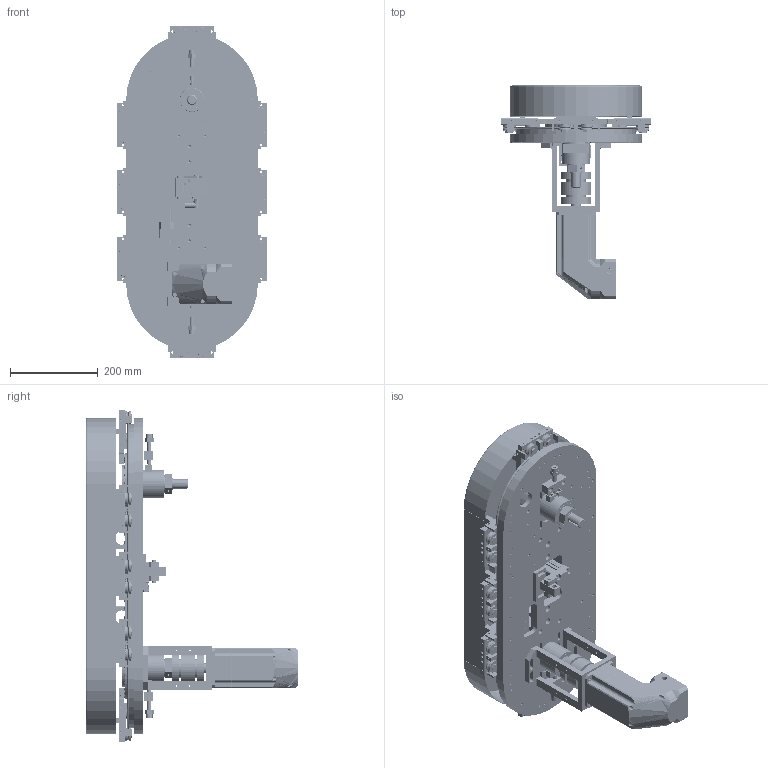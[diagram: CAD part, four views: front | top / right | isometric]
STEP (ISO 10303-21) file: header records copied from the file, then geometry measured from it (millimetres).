
FILE_DESCRIPTION (( 'STEP AP214' ), '1' );
FILE_NAME ('6.15-HXKB-L1.STEP', '2023-06-15T11:06:37', ( '' ), ( '' ), 'SwSTEP 2.0', 'SolidWorks 2016', '' );
FILE_SCHEMA (( 'AUTOMOTIVE_DESIGN' ));
Length unit declared in the file: millimetre
Products named in the file (64): 6.14-4.25-HXKB-9.21-7.30-PD90-SJH01_3.傖こ-1z2-RR-L1-L2; 6.14-4.25--鍼踢誘欶-L-L2; 6.14-4.25-HXKB-SC19-AHA01-LA1-幗謫蚳蚚菜え-L1-L2; 6.14-4.25-HXKB-ACQ 32×20S_ACQ32-100超薄气缸-L1-L2_ACQ 32×20-1; 6.14-4.25-HXKB-SC21-DHC01-TB1-桲踡蹟佪-L1-L2; 6.14-4.25-HXKB-粣創滅賑輸-L1-L2; 6.14-4.25-HXKB-SC19-AFA01-LA1-幗謫-L1-L2; 6.14-4.25-HXKB-垂直感应开关组-定位-L1-L2; 6.14-4.25-HXKB-SC21-FAA01-TB1-6006U倰鎮湛盓殤-L1-L2; 6.14-4.25-HXKB-SC21-AGA01-TB1-幗謫脹詢菜え-L1-L2; 6.14-4.25-HXKB-255耀攜菁啣-2-蟈沭-L1-L2; 6.14-4.25-HXKB-隅弇郪赶桉粣創-m8-30-L1-L2; 6.14-4.25-HXKB-SC21-DBB02-TB1-蟈沭翋雄粣陑6006-L1-L2; 6.14-4.25-HXKB-SC21-ECB01-TB1-ァ詰蟀諉粣-L1-L2; 6.14-4.25-HXKB-SC21-ADB02-TB1-蟈沭蟀諉蜇璃-侂-L1-L2; 6.14-4.25-HXKB-SC19-AOA01-LA1-ぇ陑幗謫粣-L1-L2; 6.14-4.25-HXKB-9.21-7.30-邧埴瑩 6x6x25-1z2-RR-L1-L2; 6.14-4.25-HXKB-255-蟈沭苤陬郪-L1-L2; 6.14-4.25-HXKB-SC19-AIA01-LA1-幗謫蚳蚚蹟譫-L1-L2; 6.14-4.25-HXKB-SC21-EAC06-TB1-底板气缸双轴承座-上-L1-L2_BHLC6003ZZ-40-KCA; 6.14-4.25-HXKB-SC21-DAB01-TB1-翋雄粣創釱6006-L1-L2; 6.14-4.25-HXKB-SC21-EDA02-TB1-ァ詰蟀諉等嫉-L1-L2; 6.14-4.25-HXKB-SC21-AAA-TB1-苤陬啣255-L1-L2; 6.14-4.25-HXKB-9.21-7.30-PD90-奻裔啣_108T-1z2-RR-L1-L2; 6.14-4.25-HXKB-SC21-DCA01-TB1-翋雄粣傷裔-255-L1-L2; 6.14-4.25-HXKB-SC21-ACB02-TB1-轻载环轨255-L1-L2; 6.14-4.25-HXKB-籵蚚桲踡郪-L1-L2; 6.14-4.25-HXKB-SC21-EEB02-TB1-隅弇啊旋-L1-L2; 6.14-4.25-HXKB-750W萇儂郪-L1-L2; 6.14-4.25-HXKB-联轴器68-75-22-22-6T-L1-L2; 6.14-4.25-HXKB-SC21-DHB01-TB1-桲踡蜇璃-L1-L2; 6.14-4.25-HXKB-SC21-AMA01-TB1-蚐碟-L1-L2; 6.14-4.25-HXKB-9.21-7.30-PD90-内齿圈_108T-1z2-RR-L1-L2; 6.14-4.25-HXKB-255蟈沭GMP郪-L1-L2; 6.14-4.25-HXKB-SC21-EEA02-TB1-雄薯啊旋-L1-L2; 6.15-HXKB-L1; 6.14-4.25-HXKB-E2B_S08LN04_WP_C1（NPN）-L1-L2; 6.14-4.25-HXKB-SC21-EDB02-TB1-ァ詰蟀諉邧嫉-L1-L2; 6.14-4.25-HXKB-SC21-EBA02-TB1-ァ詰粣創釱假蚾輸-L1-L2; 6.14-4.25-HXKB-SC21-AJA01-TB1-苤陬蟈謫誘欶-L1-L2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
Assembly tree (95 placements, depth 4):
  6.15-HXKB-L1
    6.14-4.25-HXKB-255蟈沭GMP郪-L1-L2
      6.14-4.25-HXKB-SC19-ABA01-LA1-眻寢酗僅A-L1-L2  x2
      6.14-4.25-HXKB-SC21-ACB02-TB1-轻载环轨255-L1-L2  x2
      6.14-4.25-HXKB-255-蟈沭苤陬郪-L1-L2  x8
        6.14-4.25-HXKB-SC21-AAA-TB1-苤陬啣255-L1-L2
        6.14-4.25-HXKB-SC21-ADB02-TB1-蟈沭蟀諉蜇璃-侂-L1-L2
        6.14-4.25-HXKB-SC21-AGA01-TB1-幗謫脹詢菜え-L1-L2
        6.14-4.25-HXKB-SC21-AMA01-TB1-蚐碟-L1-L2
        6.14-4.25-HXKB-SC19-AFA01-LA1-幗謫-L1-L2
        6.14-4.25-HXKB-SC19-ANA01-LA1-肮陑幗謫粣-L1-L2
        6.14-4.25-HXKB-SC19-AOA01-LA1-ぇ陑幗謫粣-L1-L2
        6.14-4.25-HXKB-SC19-AIA01-LA1-幗謫蚳蚚蹟譫-L1-L2
        6.14-4.25-HXKB-SC19-AHA01-LA1-幗謫蚳蚚菜え-L1-L2
        6.14-4.25-HXKB-SC21-AJA01-TB1-苤陬蟈謫誘欶-L1-L2
        6.14-4.25-HXKB-ﾍｭﾌﾗ｣ｨｦﾕ10X6X6)-L1-L2
        6.14-4.25-HXKB-SC21-AQA03-TB1-12A蟈沭樓酗諶-L1-L2
        6.14-4.25-HXKB-SC21-AEA08-TB1-摆臂式定位附件-上-L1-L2
        6.14-5.9-风琴罩-Y1
    6.14-4.25-HXKB-255耀攜菁啣-2-蟈沭-L1-L2
    6.14-4.25-HXKB-255蟈謫謫郪-L1-L2  x2
      6.14-4.25-HXKB-SC21-CAA01-TB1-255翋雄蟈謫20C-L1-L2_05B
      6.14-4.25-HXKB-SC21-DBB02-TB1-蟈沭翋雄粣陑6006-L1-L2
      6.14-4.25-HXKB-SC21-DDA02-TB1-M27-3.0滅侂蹟譫-L1-L2
      6.14-4.25-HXKB-SC21-DAB01-TB1-翋雄粣創釱6006-L1-L2
      6.14-4.25-HXKB-6006-2Z-L1-L2
      6.14-4.25-HXKB-SC21-DCA01-TB1-翋雄粣傷裔-255-L1-L2
      6.14-4.25-HXKB-籵蚚桲踡郪-L1-L2
        6.14-4.25-HXKB-SC21-DHA01-TB1-桲踡輸-L1-L2
        6.14-4.25-HXKB-SC21-DHB01-TB1-桲踡蜇璃-L1-L2
        6.14-4.25-HXKB-SC21-DHC01-TB1-桲踡蹟佪-L1-L2
    6.14-4.25-HXKB-750W萇儂郪-L1-L2
      6.14-4.25-HXKB-SC21-FAA01-TB1-6006U倰鎮湛盓殤-L1-L2
      6.14-4.25-HXKB-联轴器68-75-22-22-6T-L1-L2
      6.14-4.25-HXKB-750W-90°减速机-L1-L2
        6.14-4.25-HXKB-9.21-7.30-PD90-内齿圈_108T-1z2-RR-L1-L2
        6.14-4.25-HXKB-9.21-7.30-PD90-奻裔啣_108T-1z2-RR-L1-L2
        6.14-4.25-HXKB-9.21-7.30-PD90-SJH01_3.傖こ-1z2-RR-L1-L2
        6.14-4.25-HXKB-9.21-7.30-邧埴瑩 6x6x25-1z2-RR-L1-L2
        6.14-4.25-HXKB-9.21-7.30-PD90-眊极_桽倰2-1z2-RR-L1-L2
        6.14-4.25-HXKB-9.21-7.30-PDR90-LJ_珨极宒 梓袧-1z2-RR-L1-L2
        6.14-4.25-HXKB-9.21-7.30-内六角圆柱头螺钉M5×20-1z2-RR-L1-L2
    6.14-4.25-HXKB-255蟈沭-邳埴-L1-L2
    6.14-4.25-HXKB-立式双摆臂定位组-2-L1-L2
      6.14-4.25-HXKB-SC21-EBA02-TB1-ァ詰粣創釱假蚾輸-L1-L2  x2
      6.14-4.25-HXKB-SC21-ECB01-TB1-ァ詰蟀諉粣-L1-L2
      6.14-4.25-HXKB-SC21-ECA01-TB1-啊旋蟀諉粣-L1-L2
      6.14-4.25-HXKB-SC21-EDA02-TB1-ァ詰蟀諉等嫉-L1-L2
      6.14-4.25-HXKB-SC21-EDB02-TB1-ァ詰蟀諉邧嫉-L1-L2
      6.14-4.25-HXKB-6003-L1-L2  x3
      6.14-4.25-HXKB-随动器16-L1-L2_KRV 168
      6.14-4.25-HXKB-ACQ 32×20S_ACQ32-100超薄气缸-L1-L2_ACQ 32×20-1
      6.14-4.25-HXKB-隅弇郪赶桉粣創-m8-30-L1-L2
      6.14-4.25-HXKB-SC21-EEB02-TB1-隅弇啊旋-L1-L2
      6.14-4.25-HXKB-SC21-EEA02-TB1-雄薯啊旋-L1-L2
      6.14-4.25-HXKB-粣創滅賑輸-L1-L2
      6.14-4.25-HXKB-SC21-EAC06-TB1-底板气缸双轴承座-上-L1-L2_BHLC6003ZZ-40-KCA
      6.14-4.25-HXKB-SC21-EAC04-TB1-菁啣ァ詰粣創釱-奻-L1-L2_BHLC6003ZZ-40-KCA
      6.14-4.25-HXKB-等晚邧啊旋嫖粣2-L1-L2
    6.14-4.25-HXKB-垂直感应开关组-定位-L1-L2
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Bounding box: 340.72 x 485 x 756.77 mm (x, y, z)
Volume: 9865045.4 mm3; surface area: 3008300.6 mm2
Topology: 424 solids, 426 shells, 13533 faces, 33552 edges, 21153 vertices
Faces by surface type: plane 5321, cylinder 5117, bspline 1724, cone 1207, torus 164
Entity records: 160500 total; most frequent: CARTESIAN_POINT 39935, DIRECTION 23404, ORIENTED_EDGE 22076, EDGE_CURVE 11038, AXIS2_PLACEMENT_3D 9315, VERTEX_POINT 7189, EDGE_LOOP 5611, CIRCLE 5021
